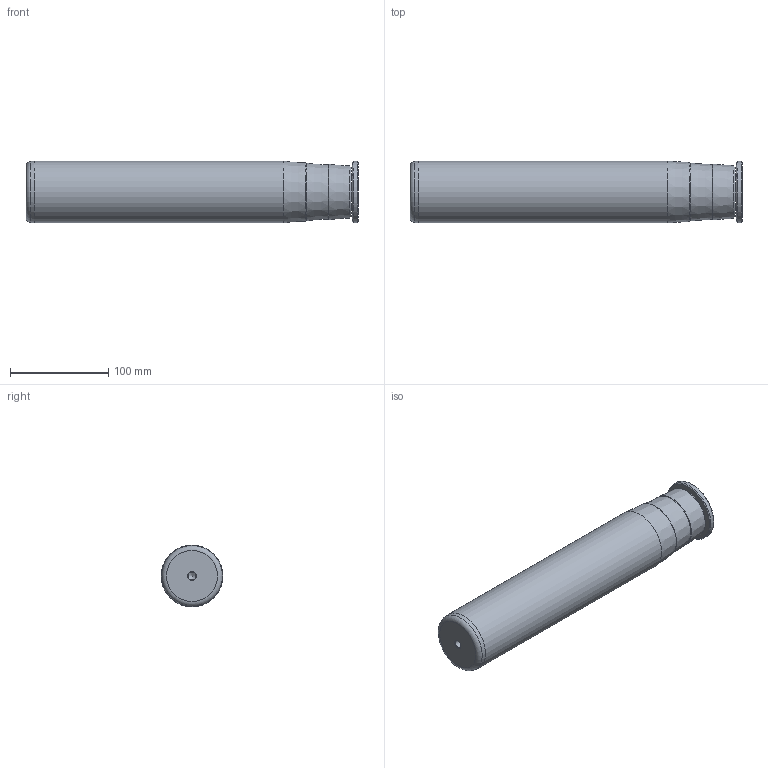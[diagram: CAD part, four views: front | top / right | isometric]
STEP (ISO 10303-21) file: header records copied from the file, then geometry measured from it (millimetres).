
FILE_DESCRIPTION(/* description */ ('Impex Ready, www.impex-ready.pl'),/* implementation_level */ '2;1');
FILE_NAME(/* name */ 'C:\Users\VIKKY\Nextcloud\SM\projekt 10 - części na stronę internetową\Pliki_3D_new\270 Słupy C5A\270_Słupy_C5A_STEP\C5A63280.ipt.step',/* time_stamp */ '2021-12-17T12:32:16+01:00',/* author */ ('SM'),/* organization */ (''),/* preprocessor_version */ 'ST-DEVELOPER v18.1',/* originating_system */ 'Autodesk Inventor 2021',/* authorisation */ '');
FILE_SCHEMA (('AUTOMOTIVE_DESIGN { 1 0 10303 214 3 1 1 }','AP242_MANAGED_MODEL_BASED_3D_ENGINEERING_MIM_LF { 1 0 10303 442 1 1 4 }'));
Length unit declared in the file: millimetre
Products named in the file (1): C5A63280
Bounding box: 338 x 63 x 63 mm (x, y, z)
Volume: 1012750.2 mm3; surface area: 79778.5 mm2
Topology: 3 solids, 3 shells, 61 faces, 134 edges, 81 vertices
Faces by surface type: plane 32, cone 16, cylinder 7, torus 6
Full cylindrical faces by diameter (mm): 8 x1, 12 x2, 12.5 x1, 19.879 x1, 63 x2
Entity records: 1769 total; most frequent: DIRECTION 309, CARTESIAN_POINT 298, ORIENTED_EDGE 262, EDGE_CURVE 131, AXIS2_PLACEMENT_3D 128, VERTEX_POINT 81, EDGE_LOOP 68, CIRCLE 66
